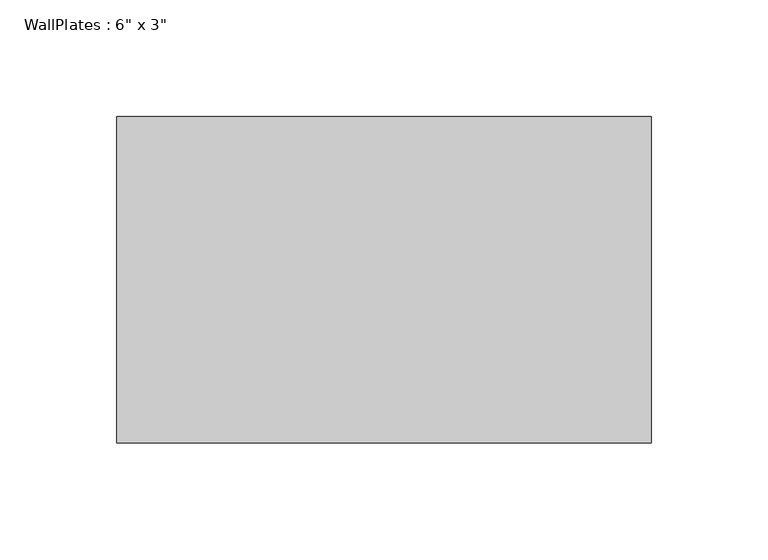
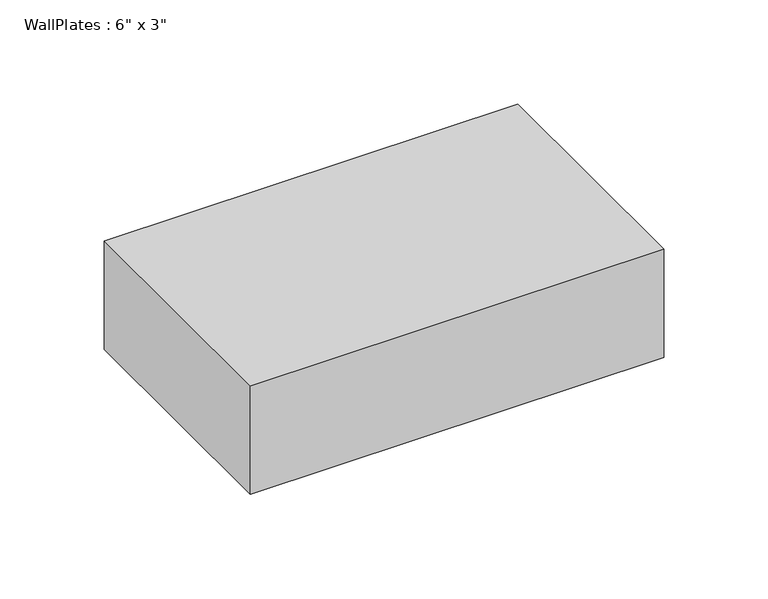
"""IFC4 building model written with IfcOpenShell, lengths in millimetres: beam geometry."""

from ifc_helpers import new_model, si_unit, frame, origin, place, context, project, spatial, polyline, outline, extrude, source, transform, mapped, element, save


def beam_906e102a(model_context):
    return source(origin(), model_context, "Body", "SweptSolid", [
        extrude(outline(polyline([(-114.2666016, -69.85), (-114.2666016, 69.85), (114.2666016, 69.85), (114.2666016, -69.85), (-114.2666016, -69.85)])), frame((0.0, 0.0, -31.75), z_axis=(0.0, 0.0, 1.0), x_axis=(1.0, 0.0, 0.0)), (0.0, 0.0, 1.0), 63.5),
    ])


if __name__ == "__main__":
    model = new_model("IFC4")
    model_context = context("Model", 3, world=origin())
    ifc_project = project(units=[si_unit("LENGTHUNIT", "METRE", prefix="MILLI")], contexts=[model_context])
    site = spatial("IfcSite", under=ifc_project)
    building = spatial("IfcBuilding", under=site)
    placement = place(None, origin())
    beam_shape = beam_906e102a(model_context)
    element("IfcBeam", 1, ObjectType="WallPlates : 6\" x 3\"", at=placement, inside=building, context=model_context, shape_type="MappedRepresentation", body=[
        mapped(beam_shape, transform((0.0, 0.0, 0.0), x_axis=(1.0, 0.0, 0.0), y_axis=(0.0, 1.0, 0.0), z_axis=(0.0, 0.0, 1.0))),
    ])
    save(model, "model.ifc")
